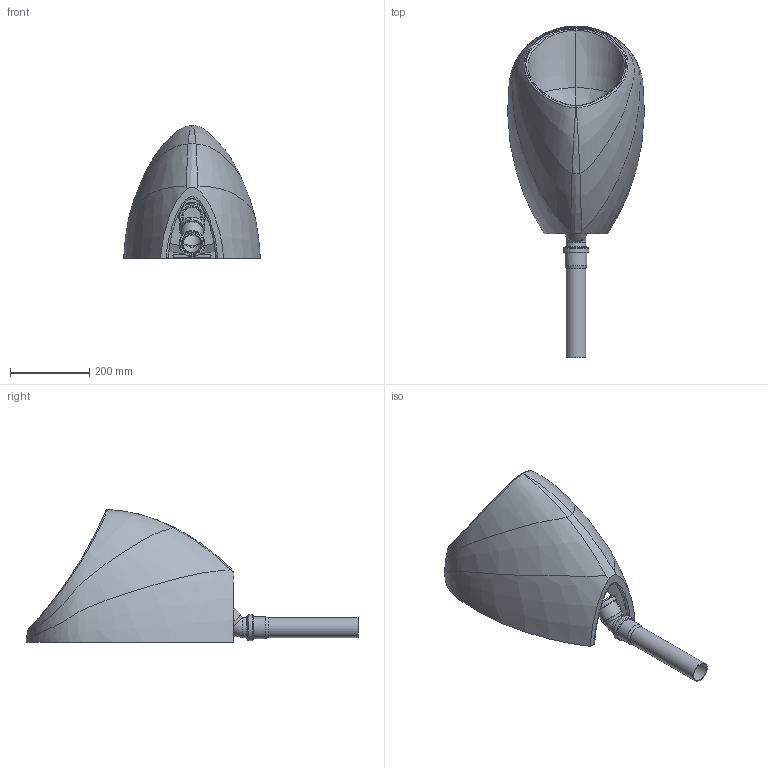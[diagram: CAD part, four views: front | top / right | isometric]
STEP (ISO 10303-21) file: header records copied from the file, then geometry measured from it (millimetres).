
FILE_DESCRIPTION((''),'2;1');
FILE_NAME('D:\ConTechCAD\Kunder\Uridan\Kummer\KVC-5\WWWfiler\3D\KVC-5.stp','2010-02-12T06:02:13',('Finn Lundsgaard'),(''),'Autodesk Inventor 2009','Autodesk Inventor 2009','');
FILE_SCHEMA(('AUTOMOTIVE_DESIGN { 1 0 10303 214 1 1 1 1 }'));
Length unit declared in the file: millimetre
Products named in the file (10): KVC-5; Kumme_KVC-5; Bøjning_Ø50x45_med_pakning; Bøjning_Ø50x45; DIN 3771 50 x 5,3 - N - NBR 70; Studs_Ø50x225_med_pakning; Rørstuds_Ø50x225; dæksel_samlet_KH-5; Dæksel_KH-5; Rør_Dæksel_KH-5
Assembly tree (10 placements, depth 3):
  KVC-5
    Kumme_KVC-5
    Bøjning_Ø50x45_med_pakning
      Bøjning_Ø50x45
      DIN 3771 50 x 5,3 - N - NBR 70
    Studs_Ø50x225_med_pakning
      Rørstuds_Ø50x225
      DIN 3771 50 x 5,3 - N - NBR 70
    dæksel_samlet_KH-5
      Dæksel_KH-5
      Rør_Dæksel_KH-5
Bounding box: 345.17 x 838 x 334.88 mm (x, y, z)
Volume: 10929541.9 mm3; surface area: 972791.7 mm2
Topology: 7 solids, 7 shells, 206 faces, 489 edges, 305 vertices
Faces by surface type: bspline 74, plane 50, cylinder 37, torus 23, cone 22
Full cylindrical faces by diameter (mm): 44.5 x1, 46 x2, 50 x3, 50.15 x1, 51 x4, 55 x4, 59.2 x2, 65 x1, 65.2 x1
Entity records: 20201 total; most frequent: CARTESIAN_POINT 15985, ORIENTED_EDGE 886, DIRECTION 618, EDGE_CURVE 443, VERTEX_POINT 295, AXIS2_PLACEMENT_3D 271, EDGE_LOOP 260, B_SPLINE_CURVE_WITH_KNOTS 214
